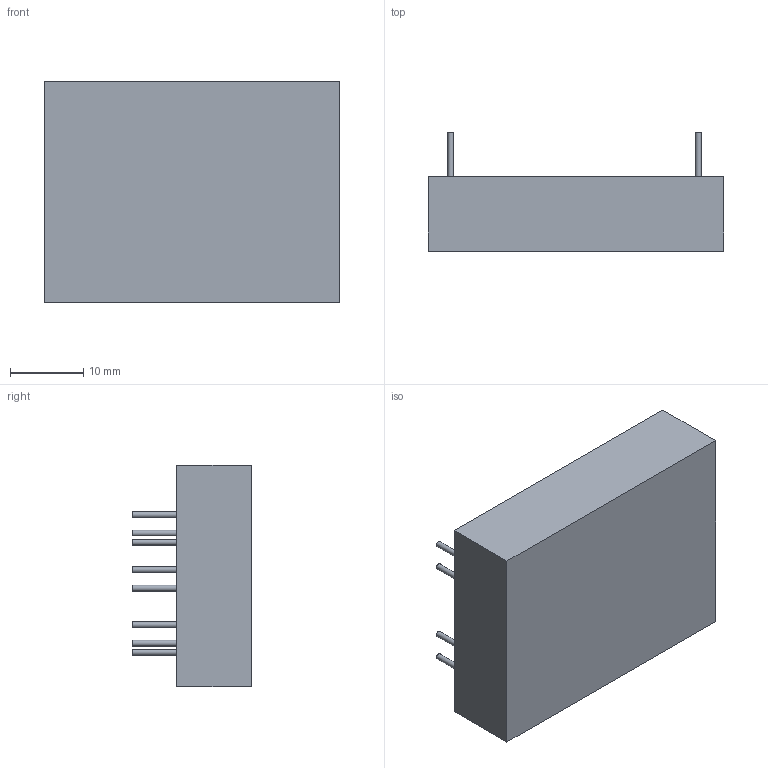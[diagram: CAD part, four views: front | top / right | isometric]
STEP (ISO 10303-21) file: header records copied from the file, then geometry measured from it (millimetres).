
FILE_DESCRIPTION((''),'2;1');
FILE_NAME('\\FILE-SERVER\Konstr\РАБОЧАЯ\Баранов А.Ю\Модули\2016\3Д модели МДМ\004 ТУ\МДМ10-3В.stp','2016-02-18T16:34:04',('ABaranov'),(''),'Autodesk Inventor 2013','Autodesk Inventor 2013','');
FILE_SCHEMA(('AUTOMOTIVE_DESIGN { 1 0 10303 214 1 1 1 1 }'));
Length unit declared in the file: millimetre
Products named in the file (1): МДМ10-3В
Bounding box: 40.2 x 16.2 x 30.2 mm (x, y, z)
Volume: 12413.4 mm3; surface area: 4025.1 mm2
Topology: 11 solids, 11 shells, 36 faces, 42 edges, 28 vertices
Faces by surface type: plane 26, cylinder 10
Full cylindrical faces by diameter (mm): 0.8 x10
Entity records: 726 total; most frequent: DIRECTION 126, CARTESIAN_POINT 97, ORIENTED_EDGE 64, AXIS2_PLACEMENT_3D 57, EDGE_LOOP 46, FACE_OUTER_BOUND 36, ADVANCED_FACE 36, EDGE_CURVE 32
